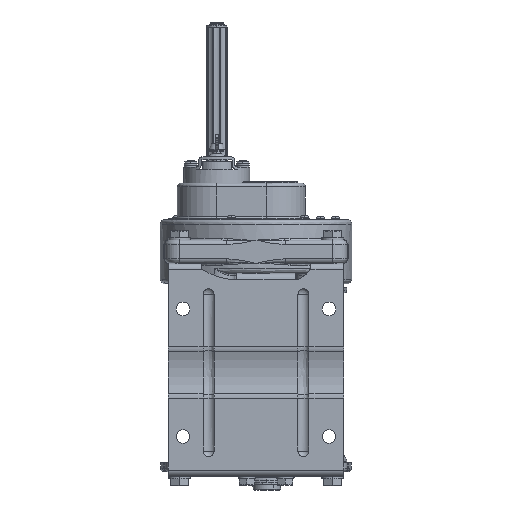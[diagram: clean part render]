
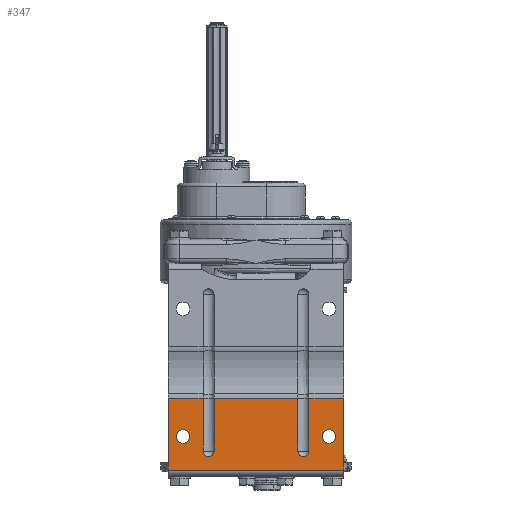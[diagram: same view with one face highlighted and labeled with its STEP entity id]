
A CAD part, front view. The second image highlights one B-rep face of the part: STEP entity #347.
In plain terms, the highlighted planar face has unit normal (0, -1, 0).
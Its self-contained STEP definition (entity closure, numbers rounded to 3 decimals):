
#347=ADVANCED_FACE('',(#5000,#5001,#5002),#4999,.T.);
#4999=PLANE('',#29886);
#5000=FACE_OUTER_BOUND('',#29887,.T.);
#5001=FACE_BOUND('',#29888,.T.);
#5002=FACE_BOUND('',#29889,.T.);
#29883=CARTESIAN_POINT('',(-563.379,-21.5,158.997));
#29884=DIRECTION('',(0.,-1.,0.));
#29885=DIRECTION('',(0.,0.,1.));
#29886=AXIS2_PLACEMENT_3D('',#29883,#29884,#29885);
#29887=EDGE_LOOP('',(#50056,#50057,#50058,#50059,#50060,#50061,#50062,#50063,#50064,#50065,#50066,#50067));
#29888=EDGE_LOOP('',(#50068,#50069));
#29889=EDGE_LOOP('',(#50070,#50071));
#50056=ORIENTED_EDGE('',*,*,#62425,.F.);
#50057=ORIENTED_EDGE('',*,*,#62439,.F.);
#50058=ORIENTED_EDGE('',*,*,#62397,.T.);
#50059=ORIENTED_EDGE('',*,*,#62440,.T.);
#50060=ORIENTED_EDGE('',*,*,#62441,.F.);
#50061=ORIENTED_EDGE('',*,*,#62442,.T.);
#50062=ORIENTED_EDGE('',*,*,#62443,.T.);
#50063=ORIENTED_EDGE('',*,*,#62444,.T.);
#50064=ORIENTED_EDGE('',*,*,#62445,.F.);
#50065=ORIENTED_EDGE('',*,*,#62446,.F.);
#50066=ORIENTED_EDGE('',*,*,#62447,.T.);
#50067=ORIENTED_EDGE('',*,*,#62448,.T.);
#50068=ORIENTED_EDGE('',*,*,#62449,.F.);
#50069=ORIENTED_EDGE('',*,*,#62450,.F.);
#50070=ORIENTED_EDGE('',*,*,#62451,.F.);
#50071=ORIENTED_EDGE('',*,*,#62452,.F.);
#62397=EDGE_CURVE('',#72871,#72872,#72873,.T.);
#62425=EDGE_CURVE('',#73059,#73066,#73067,.T.);
#62439=EDGE_CURVE('',#72871,#73059,#73163,.T.);
#62440=EDGE_CURVE('',#72872,#73169,#73170,.T.);
#62441=EDGE_CURVE('',#73176,#73169,#73177,.T.);
#62442=EDGE_CURVE('',#73176,#73183,#73184,.T.);
#62443=EDGE_CURVE('',#73183,#73190,#73191,.T.);
#62444=EDGE_CURVE('',#73190,#73197,#73198,.T.);
#62445=EDGE_CURVE('',#73204,#73197,#73205,.T.);
#62446=EDGE_CURVE('',#73211,#73204,#73212,.T.);
#62447=EDGE_CURVE('',#73211,#73218,#73219,.T.);
#62448=EDGE_CURVE('',#73218,#73066,#73225,.T.);
#62449=EDGE_CURVE('',#73231,#73232,#73233,.T.);
#62450=EDGE_CURVE('',#73232,#73231,#73239,.T.);
#62451=EDGE_CURVE('',#73245,#73246,#73247,.T.);
#62452=EDGE_CURVE('',#73246,#73245,#73253,.T.);
#72871=VERTEX_POINT('',#113713);
#72872=VERTEX_POINT('',#113714);
#72873=LINE('',#113715,#113716);
#73059=VERTEX_POINT('',#113829);
#73066=VERTEX_POINT('',#113834);
#73067=LINE('',#113835,#113836);
#73163=LINE('',#113897,#113898);
#73169=VERTEX_POINT('',#113900);
#73170=LINE('',#113901,#113902);
#73176=VERTEX_POINT('',#113904);
#73177=LINE('',#113905,#113906);
#73183=VERTEX_POINT('',#113908);
#73184=CIRCLE('',#113912,6.);
#73190=VERTEX_POINT('',#113913);
#73191=LINE('',#113914,#113915);
#73197=VERTEX_POINT('',#113917);
#73198=LINE('',#113918,#113919);
#73204=VERTEX_POINT('',#113921);
#73205=LINE('',#113922,#113923);
#73211=VERTEX_POINT('',#113925);
#73212=CIRCLE('',#113929,6.);
#73218=VERTEX_POINT('',#113930);
#73219=LINE('',#113931,#113932);
#73225=LINE('',#113934,#113935);
#73231=VERTEX_POINT('',#113937);
#73232=VERTEX_POINT('',#113938);
#73233=CIRCLE('',#113942,7.5);
#73239=CIRCLE('',#113946,7.5);
#73245=VERTEX_POINT('',#113947);
#73246=VERTEX_POINT('',#113948);
#73247=CIRCLE('',#113952,7.5);
#73253=CIRCLE('',#113956,7.5);
#113713=CARTESIAN_POINT('',(-573.379,-21.5,166.847));
#113714=CARTESIAN_POINT('',(-573.379,-21.5,245.352));
#113715=CARTESIAN_POINT('',(-573.379,-21.5,166.847));
#113716=VECTOR('',#113717,78.504);
#113717=DIRECTION('',(0.,0.,1.));
#113829=CARTESIAN_POINT('',(-765.379,-21.5,166.847));
#113834=CARTESIAN_POINT('',(-765.379,-21.5,245.352));
#113835=CARTESIAN_POINT('',(-765.379,-21.5,166.847));
#113836=VECTOR('',#113837,78.504);
#113837=DIRECTION('',(0.,0.,1.));
#113897=CARTESIAN_POINT('',(-573.379,-21.5,166.847));
#113898=VECTOR('',#113899,192.);
#113899=DIRECTION('',(-1.,0.,0.));
#113900=CARTESIAN_POINT('',(-611.379,-21.5,245.352));
#113901=CARTESIAN_POINT('',(-573.379,-21.5,245.352));
#113902=VECTOR('',#113903,38.);
#113903=DIRECTION('',(-1.,0.,0.));
#113904=CARTESIAN_POINT('',(-611.379,-21.5,187.645));
#113905=CARTESIAN_POINT('',(-611.379,-21.5,187.645));
#113906=VECTOR('',#113907,57.706);
#113907=DIRECTION('',(0.,0.,1.));
#113908=CARTESIAN_POINT('',(-623.379,-21.5,187.645));
#113909=CARTESIAN_POINT('',(-617.379,-21.5,187.645));
#113910=DIRECTION('',(0.,1.,0.));
#113911=DIRECTION('',(1.,0.,0.));
#113912=AXIS2_PLACEMENT_3D('',#113909,#113910,#113911);
#113913=CARTESIAN_POINT('',(-623.379,-21.5,245.352));
#113914=CARTESIAN_POINT('',(-623.379,-21.5,187.645));
#113915=VECTOR('',#113916,57.706);
#113916=DIRECTION('',(0.,0.,1.));
#113917=CARTESIAN_POINT('',(-715.379,-21.5,245.352));
#113918=CARTESIAN_POINT('',(-623.379,-21.5,245.352));
#113919=VECTOR('',#113920,92.);
#113920=DIRECTION('',(-1.,0.,0.));
#113921=CARTESIAN_POINT('',(-715.379,-21.5,187.645));
#113922=CARTESIAN_POINT('',(-715.379,-21.5,187.645));
#113923=VECTOR('',#113924,57.706);
#113924=DIRECTION('',(0.,0.,1.));
#113925=CARTESIAN_POINT('',(-727.379,-21.5,187.645));
#113926=CARTESIAN_POINT('',(-721.379,-21.5,187.645));
#113927=DIRECTION('',(0.,-1.,0.));
#113928=DIRECTION('',(1.,0.,0.));
#113929=AXIS2_PLACEMENT_3D('',#113926,#113927,#113928);
#113930=CARTESIAN_POINT('',(-727.379,-21.5,245.352));
#113931=CARTESIAN_POINT('',(-727.379,-21.5,187.645));
#113932=VECTOR('',#113933,57.706);
#113933=DIRECTION('',(0.,0.,1.));
#113934=CARTESIAN_POINT('',(-727.379,-21.5,245.352));
#113935=VECTOR('',#113936,38.);
#113936=DIRECTION('',(-1.,0.,0.));
#113937=CARTESIAN_POINT('',(-589.379,-21.5,196.047));
#113938=CARTESIAN_POINT('',(-589.379,-21.5,211.047));
#113939=CARTESIAN_POINT('',(-589.379,-21.5,203.547));
#113940=DIRECTION('',(0.,-1.,0.));
#113941=DIRECTION('',(0.,0.,1.));
#113942=AXIS2_PLACEMENT_3D('',#113939,#113940,#113941);
#113943=CARTESIAN_POINT('',(-589.379,-21.5,203.547));
#113944=DIRECTION('',(0.,-1.,0.));
#113945=DIRECTION('',(0.,0.,1.));
#113946=AXIS2_PLACEMENT_3D('',#113943,#113944,#113945);
#113947=CARTESIAN_POINT('',(-749.379,-21.5,196.047));
#113948=CARTESIAN_POINT('',(-749.379,-21.5,211.047));
#113949=CARTESIAN_POINT('',(-749.379,-21.5,203.547));
#113950=DIRECTION('',(0.,-1.,0.));
#113951=DIRECTION('',(0.,0.,1.));
#113952=AXIS2_PLACEMENT_3D('',#113949,#113950,#113951);
#113953=CARTESIAN_POINT('',(-749.379,-21.5,203.547));
#113954=DIRECTION('',(0.,-1.,0.));
#113955=DIRECTION('',(0.,0.,1.));
#113956=AXIS2_PLACEMENT_3D('',#113953,#113954,#113955);
